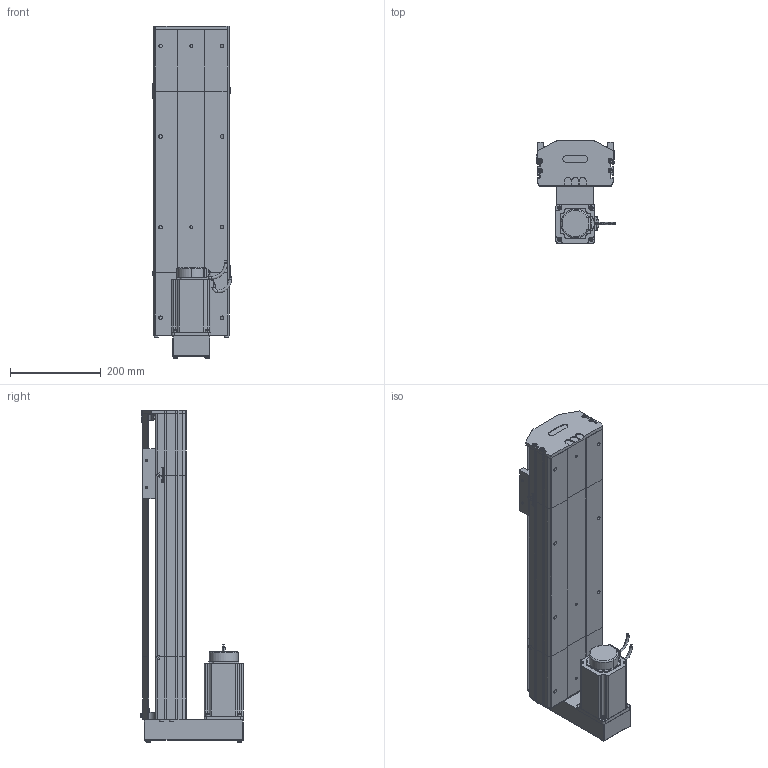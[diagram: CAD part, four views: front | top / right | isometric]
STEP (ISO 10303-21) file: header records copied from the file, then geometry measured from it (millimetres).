
FILE_DESCRIPTION (( 'STEP AP214' ), '1' );
FILE_NAME ('D17 TSN BM S400.STEP', '2010-06-30T07:29:54', ( 'Christophe Gaillard' ), ( 'SGA' ), 'SwSTEP 2.0', 'SolidWorks 2010', '' );
FILE_SCHEMA (( 'AUTOMOTIVE_DESIGN' ));
Length unit declared in the file: millimetre
Products named in the file (33): arbre + rail D17 Course 400 ; D17 TSN BM S400; Conecteur_Default; course 400 D17_Default; Conecteur2_Default; corp D17 400_Default; codeur 90BLDC125-640; Vis M5 L16-2_Default; couvercle D17 course L400_Default; corps 90BLDC125A-640; corpl tail D17_Default; Tail D17_Default; vis M5 L5_Default; tete d''axe bas D17; plaque de  bout tail D17_Default; avant 90BLDC125A-640; Moteur motionking 90BLDC125A-640; tete d''axe haut D17; Arbre+rail head D17; plaque de  bout BM head D17_Default; Arbre+rail tail D17; corpl head D17 BM_Default; couvercle D17_Default; couvercle D17 head_Default; head BM_Default; vis M5 L25_Default; vis M5 L8 90°_Default; guide D17; Chariot D17 TBN; chariot D17 TSN; Cvis M5 L70_Default; renvoi Bm_Default; vis M5 L12_Default
Assembly tree (51 placements, depth 4):
  D17 TSN BM S400
    course 400 D17_Default
      arbre + rail D17 Course 400 
      couvercle D17 course L400_Default
      corp D17 400_Default
    Tail D17_Default
      Arbre+rail tail D17
      vis M5 L8 90°_Default  x2
      plaque de  bout tail D17_Default
      couvercle D17_Default
      tete d''axe haut D17
      tete d''axe bas D17
      vis M5 L12_Default  x4
      corpl tail D17_Default
      vis M5 L25_Default  x2
    head BM_Default
      vis M5 L12_Default  x8
      Arbre+rail head D17
      Cvis M5 L70_Default  x2
      renvoi Bm_Default
      Vis M5 L16-2_Default  x4
      vis M5 L5_Default  x2
      corpl head D17 BM_Default
      Moteur motionking 90BLDC125A-640
        Conecteur2_Default
        avant 90BLDC125A-640
        codeur 90BLDC125-640
        corps 90BLDC125A-640
        Conecteur_Default
      plaque de  bout BM head D17_Default
      couvercle D17 head_Default
    chariot D17 TSN
      Chariot D17 TBN
      guide D17  x2
Bounding box: 174.95 x 225.7 x 732.7 mm (x, y, z)
Volume: 5519274.3 mm3; surface area: 1360274.2 mm2
Topology: 75 solids, 75 shells, 2103 faces, 5301 edges, 3428 vertices
Faces by surface type: plane 1322, cylinder 520, bspline 136, torus 65, cone 56, sphere 4
Entity records: 70246 total; most frequent: CARTESIAN_POINT 22320, ORIENTED_EDGE 8510, DIRECTION 7940, EDGE_CURVE 4255, LINE 2992, VECTOR 2992, VERTEX_POINT 2794, AXIS2_PLACEMENT_3D 2474
